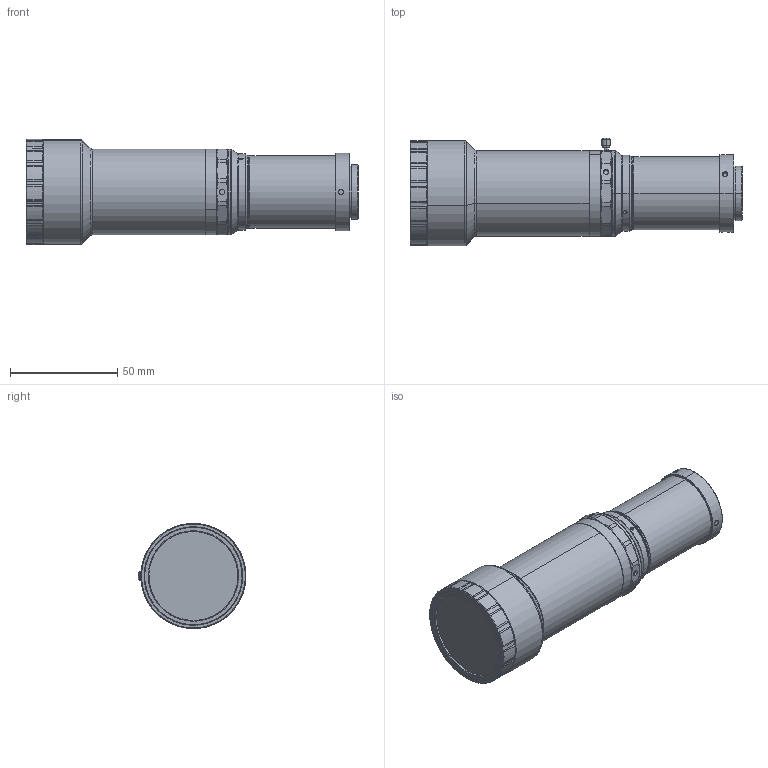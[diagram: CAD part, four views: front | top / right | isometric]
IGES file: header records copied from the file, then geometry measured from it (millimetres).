
Start section: SolidWorks IGES file using analytic representation for surfaces
Global section: file name: E:\图纸\镜头\DTCA\DTCA121\DTCA小倍率\DTCA121-14.8\发客户3D\DTCA121-14.8-G.IGS; native system: SolidWorks 2017; preprocessor: SolidWorks 2017; author: gc; date: 240129.152624; units: millimetre
Bounding box: 154.74 x 50.28 x 49 mm (x, y, z)
Surface area: 23522.3 mm2 (no closed solid volume)
Topology: 0 solids, 0 shells, 266 faces, 3580 edges, 3580 vertices
Faces by surface type: revolution 226, bspline 40
